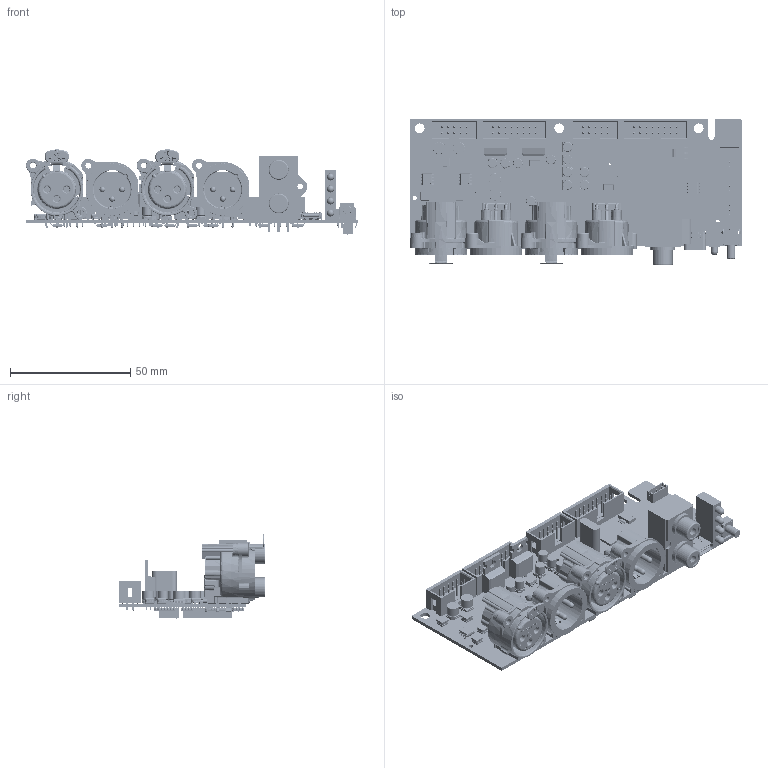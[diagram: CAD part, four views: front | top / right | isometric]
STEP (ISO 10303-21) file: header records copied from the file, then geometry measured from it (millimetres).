
FILE_DESCRIPTION (( 'STEP AP214' ), '1' );
FILE_NAME ('DSP3-224 01xx.STEP', '2025-06-27T07:14:32', ( '' ), ( '' ), 'SwSTEP 2.0', 'SolidWorks 2023', '' );
FILE_SCHEMA (( 'AUTOMOTIVE_DESIGN' ));
Length unit declared in the file: millimetre
Products named in the file (1): DSP3-224 01xx
Bounding box: 138.05 x 61.1 x 35.42 mm (x, y, z)
Surface area: 57123.4 mm2 (no closed solid volume)
Topology: 0 solids, 453 shells, 20742 faces, 52680 edges, 32754 vertices
Faces by surface type: plane 12350, cylinder 4770, bspline 2604, sphere 390, torus 324, cone 304
Entity records: 913048 total; most frequent: CARTESIAN_POINT 208970, ORIENTED_EDGE 103924, DIRECTION 87601, EDGE_CURVE 52082, VECTOR 32871, LINE 32871, VERTEX_POINT 32736, AXIS2_PLACEMENT_3D 27365
